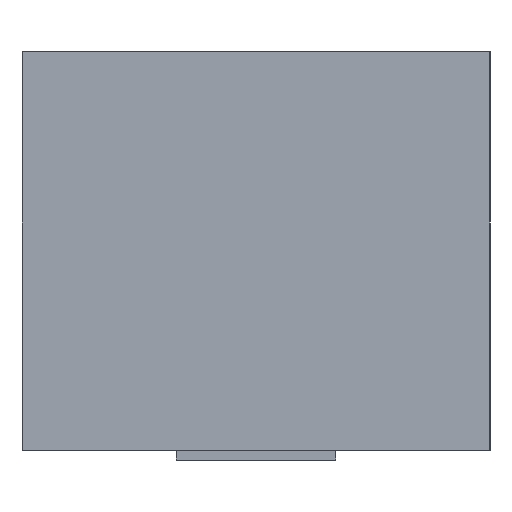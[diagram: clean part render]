
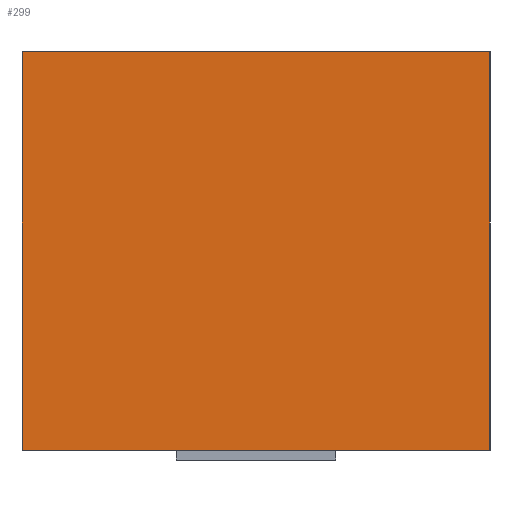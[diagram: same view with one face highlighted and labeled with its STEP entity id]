
A CAD part, left-side view. The second image highlights one B-rep face of the part: STEP entity #299.
In plain terms, the highlighted planar face has unit normal (-1, 0, 0).
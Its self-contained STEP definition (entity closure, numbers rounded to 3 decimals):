
#36 = EDGE_CURVE('',#37,#39,#41,.T.);
#37 = VERTEX_POINT('',#38);
#38 = CARTESIAN_POINT('',(-5.7,2.35,0.));
#39 = VERTEX_POINT('',#40);
#40 = CARTESIAN_POINT('',(-5.7,2.35,4.));
#41 = SURFACE_CURVE('',#42,(#46,#58),.PCURVE_S1.);
#42 = LINE('',#43,#44);
#43 = CARTESIAN_POINT('',(-5.7,2.35,0.));
#44 = VECTOR('',#45,1.);
#45 = DIRECTION('',(0.,0.,1.));
#46 = PCURVE('',#47,#52);
#47 = PLANE('',#48);
#48 = AXIS2_PLACEMENT_3D('',#49,#50,#51);
#49 = CARTESIAN_POINT('',(-5.7,2.35,0.));
#50 = DIRECTION('',(0.,1.,0.));
#51 = DIRECTION('',(1.,0.,0.));
#52 = DEFINITIONAL_REPRESENTATION('',(#53),#57);
#53 = LINE('',#54,#55);
#54 = CARTESIAN_POINT('',(0.,0.));
#55 = VECTOR('',#56,1.);
#56 = DIRECTION('',(0.,-1.));
#57 = ( GEOMETRIC_REPRESENTATION_CONTEXT(2) 
PARAMETRIC_REPRESENTATION_CONTEXT() REPRESENTATION_CONTEXT('2D SPACE',''
  ) );
#58 = PCURVE('',#59,#64);
#59 = PLANE('',#60);
#60 = AXIS2_PLACEMENT_3D('',#61,#62,#63);
#61 = CARTESIAN_POINT('',(-5.7,-2.35,0.));
#62 = DIRECTION('',(-1.,0.,0.));
#63 = DIRECTION('',(0.,1.,0.));
#64 = DEFINITIONAL_REPRESENTATION('',(#65),#69);
#65 = LINE('',#66,#67);
#66 = CARTESIAN_POINT('',(4.7,0.));
#67 = VECTOR('',#68,1.);
#68 = DIRECTION('',(0.,-1.));
#69 = ( GEOMETRIC_REPRESENTATION_CONTEXT(2) 
PARAMETRIC_REPRESENTATION_CONTEXT() REPRESENTATION_CONTEXT('2D SPACE',''
  ) );
#87 = PLANE('',#88);
#88 = AXIS2_PLACEMENT_3D('',#89,#90,#91);
#89 = CARTESIAN_POINT('',(0.,0.,4.));
#90 = DIRECTION('',(-0.,-0.,-1.));
#91 = DIRECTION('',(-1.,0.,0.));
#141 = PLANE('',#142);
#142 = AXIS2_PLACEMENT_3D('',#143,#144,#145);
#143 = CARTESIAN_POINT('',(0.,0.,0.));
#144 = DIRECTION('',(-0.,-0.,-1.));
#145 = DIRECTION('',(-1.,0.,0.));
#196 = PLANE('',#197);
#197 = AXIS2_PLACEMENT_3D('',#198,#199,#200);
#198 = CARTESIAN_POINT('',(5.7,-2.35,0.));
#199 = DIRECTION('',(0.,-1.,0.));
#200 = DIRECTION('',(-1.,0.,0.));
#234 = VERTEX_POINT('',#235);
#235 = CARTESIAN_POINT('',(-5.7,-2.35,4.));
#256 = EDGE_CURVE('',#257,#234,#259,.T.);
#257 = VERTEX_POINT('',#258);
#258 = CARTESIAN_POINT('',(-5.7,-2.35,0.));
#259 = SURFACE_CURVE('',#260,(#264,#271),.PCURVE_S1.);
#260 = LINE('',#261,#262);
#261 = CARTESIAN_POINT('',(-5.7,-2.35,0.));
#262 = VECTOR('',#263,1.);
#263 = DIRECTION('',(0.,0.,1.));
#264 = PCURVE('',#196,#265);
#265 = DEFINITIONAL_REPRESENTATION('',(#266),#270);
#266 = LINE('',#267,#268);
#267 = CARTESIAN_POINT('',(11.4,0.));
#268 = VECTOR('',#269,1.);
#269 = DIRECTION('',(0.,-1.));
#270 = ( GEOMETRIC_REPRESENTATION_CONTEXT(2) 
PARAMETRIC_REPRESENTATION_CONTEXT() REPRESENTATION_CONTEXT('2D SPACE',''
  ) );
#271 = PCURVE('',#59,#272);
#272 = DEFINITIONAL_REPRESENTATION('',(#273),#277);
#273 = LINE('',#274,#275);
#274 = CARTESIAN_POINT('',(0.,0.));
#275 = VECTOR('',#276,1.);
#276 = DIRECTION('',(0.,-1.));
#277 = ( GEOMETRIC_REPRESENTATION_CONTEXT(2) 
PARAMETRIC_REPRESENTATION_CONTEXT() REPRESENTATION_CONTEXT('2D SPACE',''
  ) );
#299 = ADVANCED_FACE('',(#300),#59,.T.);
#300 = FACE_BOUND('',#301,.T.);
#301 = EDGE_LOOP('',(#302,#303,#324,#325));
#302 = ORIENTED_EDGE('',*,*,#256,.T.);
#303 = ORIENTED_EDGE('',*,*,#304,.T.);
#304 = EDGE_CURVE('',#234,#39,#305,.T.);
#305 = SURFACE_CURVE('',#306,(#310,#317),.PCURVE_S1.);
#306 = LINE('',#307,#308);
#307 = CARTESIAN_POINT('',(-5.7,-2.35,4.));
#308 = VECTOR('',#309,1.);
#309 = DIRECTION('',(0.,1.,0.));
#310 = PCURVE('',#59,#311);
#311 = DEFINITIONAL_REPRESENTATION('',(#312),#316);
#312 = LINE('',#313,#314);
#313 = CARTESIAN_POINT('',(0.,-4.));
#314 = VECTOR('',#315,1.);
#315 = DIRECTION('',(1.,0.));
#316 = ( GEOMETRIC_REPRESENTATION_CONTEXT(2) 
PARAMETRIC_REPRESENTATION_CONTEXT() REPRESENTATION_CONTEXT('2D SPACE',''
  ) );
#317 = PCURVE('',#87,#318);
#318 = DEFINITIONAL_REPRESENTATION('',(#319),#323);
#319 = LINE('',#320,#321);
#320 = CARTESIAN_POINT('',(5.7,-2.35));
#321 = VECTOR('',#322,1.);
#322 = DIRECTION('',(0.,1.));
#323 = ( GEOMETRIC_REPRESENTATION_CONTEXT(2) 
PARAMETRIC_REPRESENTATION_CONTEXT() REPRESENTATION_CONTEXT('2D SPACE',''
  ) );
#324 = ORIENTED_EDGE('',*,*,#36,.F.);
#325 = ORIENTED_EDGE('',*,*,#326,.F.);
#326 = EDGE_CURVE('',#257,#37,#327,.T.);
#327 = SURFACE_CURVE('',#328,(#332,#339),.PCURVE_S1.);
#328 = LINE('',#329,#330);
#329 = CARTESIAN_POINT('',(-5.7,-2.35,0.));
#330 = VECTOR('',#331,1.);
#331 = DIRECTION('',(0.,1.,0.));
#332 = PCURVE('',#59,#333);
#333 = DEFINITIONAL_REPRESENTATION('',(#334),#338);
#334 = LINE('',#335,#336);
#335 = CARTESIAN_POINT('',(0.,0.));
#336 = VECTOR('',#337,1.);
#337 = DIRECTION('',(1.,0.));
#338 = ( GEOMETRIC_REPRESENTATION_CONTEXT(2) 
PARAMETRIC_REPRESENTATION_CONTEXT() REPRESENTATION_CONTEXT('2D SPACE',''
  ) );
#339 = PCURVE('',#141,#340);
#340 = DEFINITIONAL_REPRESENTATION('',(#341),#345);
#341 = LINE('',#342,#343);
#342 = CARTESIAN_POINT('',(5.7,-2.35));
#343 = VECTOR('',#344,1.);
#344 = DIRECTION('',(0.,1.));
#345 = ( GEOMETRIC_REPRESENTATION_CONTEXT(2) 
PARAMETRIC_REPRESENTATION_CONTEXT() REPRESENTATION_CONTEXT('2D SPACE',''
  ) );
